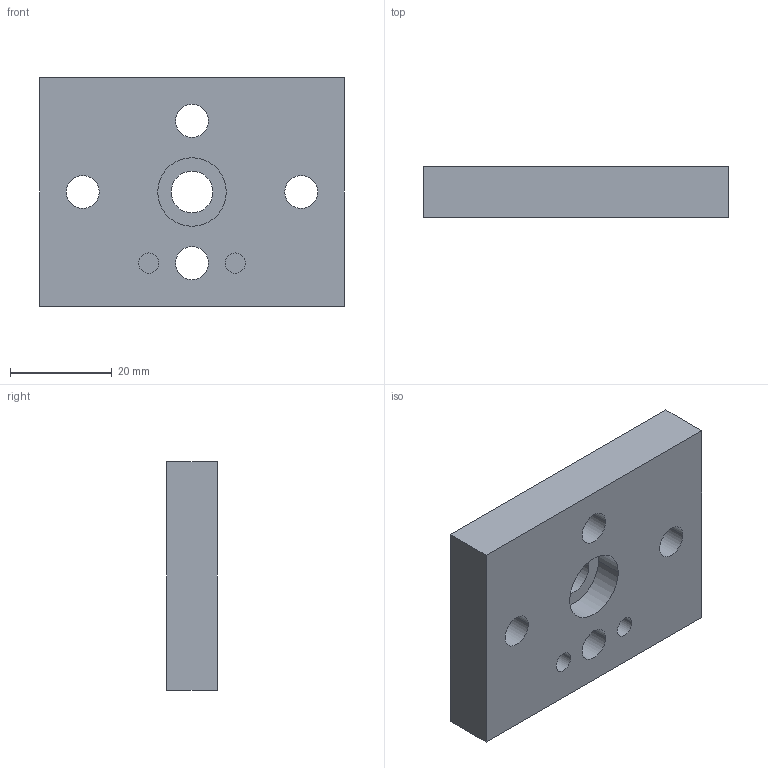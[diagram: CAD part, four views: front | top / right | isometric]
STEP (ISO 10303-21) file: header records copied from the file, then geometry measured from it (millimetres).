
FILE_DESCRIPTION((''),'2;1');
FILE_NAME('GIF0200','2002-12-27T',('Lipro doo'),('Lipro d.o.o.'),'PRO/ENGINEER BY PARAMETRIC TECHNOLOGY CORPORATION, 2001150','PRO/ENGINEER BY PARAMETRIC TECHNOLOGY CORPORATION, 2001150','');
FILE_SCHEMA(('CONFIG_CONTROL_DESIGN'));
Length unit declared in the file: millimetre
Products named in the file (1): GIF0200
Bounding box: 60 x 10 x 45 mm (x, y, z)
Volume: 22519.5 mm3; surface area: 9204.4 mm2
Topology: 1 solids, 1 shells, 73 faces, 180 edges, 120 vertices
Faces by surface type: cylinder 40, plane 33
Entity records: 2252 total; most frequent: DIRECTION 406, CARTESIAN_POINT 373, ORIENTED_EDGE 360, EDGE_CURVE 180, AXIS2_PLACEMENT_3D 153, VERTEX_POINT 120, VECTOR 100, LINE 100
